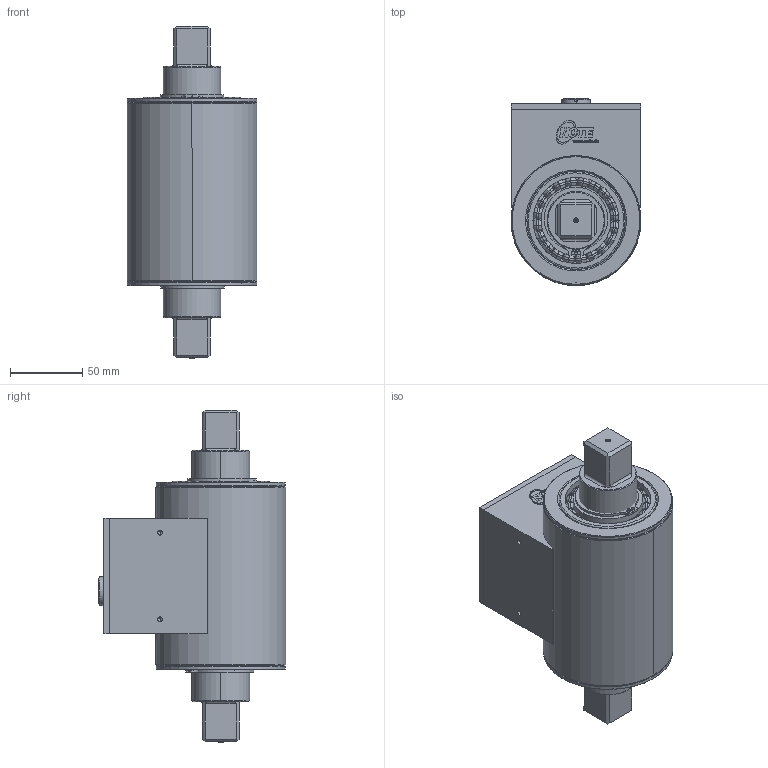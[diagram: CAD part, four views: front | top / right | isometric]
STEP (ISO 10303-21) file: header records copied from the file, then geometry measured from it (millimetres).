
FILE_DESCRIPTION (( 'STEP AP214' ), '1' );
FILE_NAME ('400007-ATS021_Sensor_Mb_1000-2000Nm_Vierkant_ohne_WS_IP50.STEP', '2016-11-29T10:03:40', ( '' ), ( '' ), 'SwSTEP 2.0', 'SolidWorks 2016', '' );
FILE_SCHEMA (( 'AUTOMOTIVE_DESIGN' ));
Length unit declared in the file: millimetre
Products named in the file (14): Passscheibe DIN 988_DIN 988-55x68x0.5; 400007-ATM017_Elektronikgehaeuse_Mb_1000-2000Nm; 400007-ATM011_Rohrgehaeuse_Mb-1000-2000Nm; 999999-ATM003-Tellerfeder_k_vorgespannt67,5x50,5x0,7_Standard; Kugellager DIN 625_DIN 625 - 6008 - Full,DE,AC,Full_68; Senkschraube mit Innensechskant DIN 7991_DIN 7991 - M4 x 10 --- 10S; 400007-ATM024_Welle40mm_Mb_1000-2000Nm_Vierkant; 400007-ATS021_Sensor_Mb_1000-2000Nm_Vierkant_ohne_WS_IP50; Senkschraube mit Innensechskant DIN 7991_DIN 7991 - M3 x 10 --- 10S; 400007-ATM014_Lagerdeckel_Mb-1000-2000Nm; Seegering DIN 471_Circlip DIN 471 - 40 x 1.75; 400007-ATM020_Deckel_Elektronikgehäuse_Mb_1000-2000Nm; 999999-ATE042_Buchse-09-0132-90-12_12Pol_Standard; 999999-ATE072_Folientaster beleuchtet_Standard
Assembly tree (25 placements, depth 2):
  400007-ATS021_Sensor_Mb_1000-2000Nm_Vierkant_ohne_WS_IP50
    400007-ATM024_Welle40mm_Mb_1000-2000Nm_Vierkant
    400007-ATM011_Rohrgehaeuse_Mb-1000-2000Nm
    Senkschraube mit Innensechskant DIN 7991_DIN 7991 - M3 x 10 --- 10S  x8
    400007-ATM014_Lagerdeckel_Mb-1000-2000Nm  x2
    400007-ATM017_Elektronikgehaeuse_Mb_1000-2000Nm
    Senkschraube mit Innensechskant DIN 7991_DIN 7991 - M4 x 10 --- 10S  x2
    999999-ATE072_Folientaster beleuchtet_Standard
    999999-ATE042_Buchse-09-0132-90-12_12Pol_Standard
    400007-ATM020_Deckel_Elektronikgehäuse_Mb_1000-2000Nm
    Seegering DIN 471_Circlip DIN 471 - 40 x 1.75  x2
    Kugellager DIN 625_DIN 625 - 6008 - Full,DE,AC,Full_68  x2
    Passscheibe DIN 988_DIN 988-55x68x0.5  x2
    999999-ATM003-Tellerfeder_k_vorgespannt67,5x50,5x0,7_Standard
Bounding box: 90 x 129.79 x 230 mm (x, y, z)
Surface area: 249514.2 mm2 (no closed solid volume)
Topology: 0 solids, 25 shells, 2398 faces, 6039 edges, 3642 vertices
Faces by surface type: cone 794, cylinder 638, bspline 535, plane 427, torus 4
Entity records: 47666 total; most frequent: CARTESIAN_POINT 19851, ORIENTED_EDGE 6102, DIRECTION 5073, EDGE_CURVE 3051, VERTEX_POINT 1949, AXIS2_PLACEMENT_3D 1925, EDGE_LOOP 1348, LINE 1223
